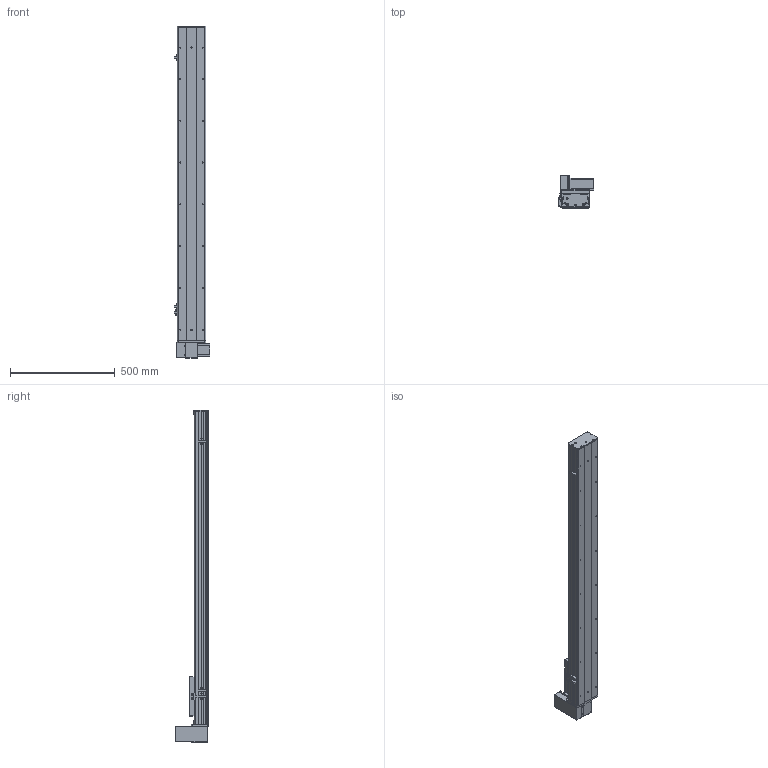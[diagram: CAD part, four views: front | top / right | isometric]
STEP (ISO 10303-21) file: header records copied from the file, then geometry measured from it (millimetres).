
FILE_DESCRIPTION (( 'STEP AP203' ), '1' );
FILE_NAME ('Y135CB-D90-S1200-UR-P400W.STEP', '2020-02-18T04:09:03', ( '微软用户' ), ( '微软中国' ), 'SwSTEP 2.0', 'SolidWorks 2017', '' );
FILE_SCHEMA (( 'CONFIG_CONTROL_DESIGN' ));
Length unit declared in the file: millimetre
Products named in the file (18): Y135CB-D90-S1200-UR-P400W; 135CB--詩湍-CE; 135CB---遴掛极.-; Y100-135俋离換覜ん--; 35CB---喘謫眊楊擘啣; Y135C-陔俋离換覜結え-; 0B-埴倛裔啣; 5C--俋欶; 0B-源倛裔啣; C-雄赽釱--; 0B-萇儂楊擘啣; Y10B--々湍喘謫眊--666; san松下电机400不带刹车----; Y10B-耜蚾蟀諉啣----; 5CB --掛极耜裔啣-; 00B-俋欶BM--; C-詩湍揤踡え-陔; Y135CB-耜裔
Assembly tree (21 placements, depth 2):
  Y135CB-D90-S1200-UR-P400W
    Y135CB-耜裔
    135CB---遴掛极.-
    35CB---喘謫眊楊擘啣
    0B-埴倛裔啣
    0B-源倛裔啣
    0B-萇儂楊擘啣
    san松下电机400不带刹车----
    5CB --掛极耜裔啣-  x2
    C-詩湍揤踡え-陔  x2
    135CB--詩湍-CE
    Y100-135俋离換覜ん--  x3
    Y135C-陔俋离換覜結え-
    5C--俋欶
    C-雄赽釱--
    Y10B--々湍喘謫眊--666
    Y10B-耜蚾蟀諉啣----
    00B-俋欶BM--
Bounding box: 167.5 x 158.7 x 1588 mm (x, y, z)
Volume: 4905834.9 mm3; surface area: 1924724.4 mm2
Topology: 21 solids, 21 shells, 949 faces, 2545 edges, 1686 vertices
Faces by surface type: cylinder 477, plane 456, cone 16
Entity records: 29551 total; most frequent: DIRECTION 4909, CARTESIAN_POINT 4856, ORIENTED_EDGE 4566, EDGE_CURVE 2283, AXIS2_PLACEMENT_3D 1791, VERTEX_POINT 1514, LINE 1327, VECTOR 1327
